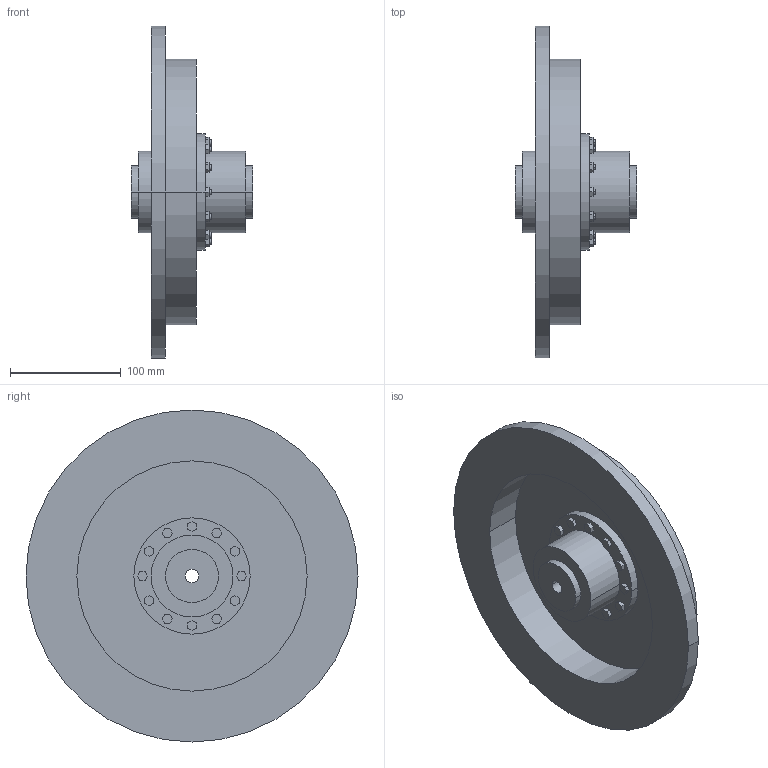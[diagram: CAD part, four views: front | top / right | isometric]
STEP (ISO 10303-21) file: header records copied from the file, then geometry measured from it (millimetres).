
FILE_DESCRIPTION((''),'2;1');
FILE_NAME('A19125600-0_ASM','2018-11-13T',('AB_Roschiwal'),('RENK AG'),'PRO/ENGINEER BY PARAMETRIC TECHNOLOGY CORPORATION, 2015440','PRO/ENGINEER BY PARAMETRIC TECHNOLOGY CORPORATION, 2015440','');
FILE_SCHEMA(('CONFIG_CONTROL_DESIGN'));
Length unit declared in the file: millimetre
Products named in the file (4): LBKT32_GEHAEUSE; LBKT32_NABE; LBKT32_BREMSSCHEIBE; A19125600-0_ASM
Assembly tree (4 placements, depth 2):
  A19125600-0_ASM
    LBKT32_GEHAEUSE
    LBKT32_NABE  x2
    LBKT32_BREMSSCHEIBE
Bounding box: 110 x 300 x 300 mm (x, y, z)
Volume: 1453682.7 mm3; surface area: 295619.3 mm2
Topology: 4 solids, 4 shells, 294 faces, 708 edges, 472 vertices
Faces by surface type: plane 202, cylinder 92
Entity records: 8412 total; most frequent: DIRECTION 1432, CARTESIAN_POINT 1430, ORIENTED_EDGE 1368, EDGE_CURVE 684, VECTOR 516, LINE 516, AXIS2_PLACEMENT_3D 458, VERTEX_POINT 456
